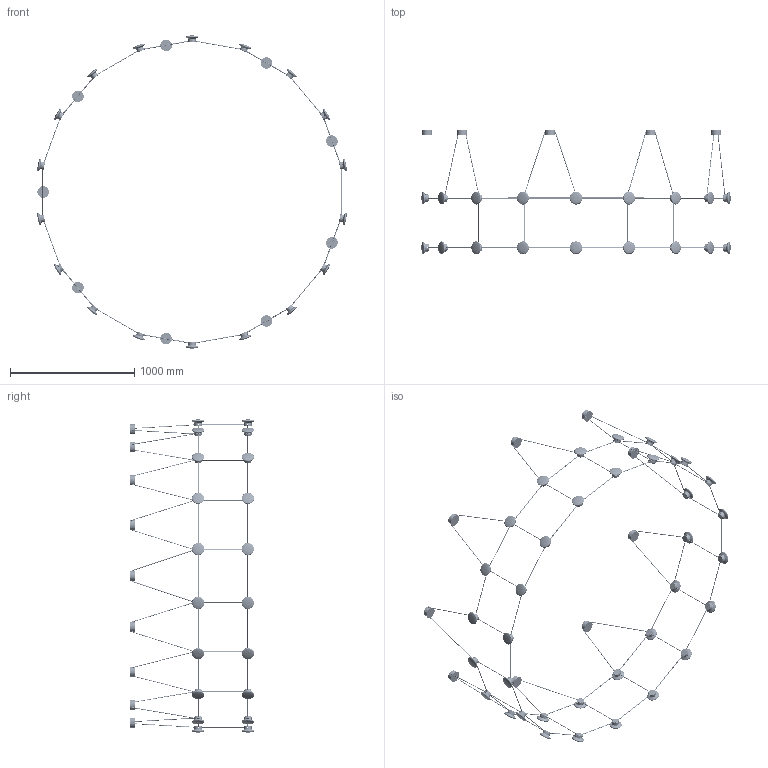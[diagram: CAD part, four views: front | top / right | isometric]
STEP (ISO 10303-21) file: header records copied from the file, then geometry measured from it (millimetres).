
FILE_DESCRIPTION (( 'STEP AP203' ), '1' );
FILE_NAME ('FBN08.LS02.AF01.R00 - Render.STEP', '2026-05-07T15:07:09', ( '' ), ( '' ), 'SwSTEP 2.0', 'SolidWorks 2025', '' );
FILE_SCHEMA (( 'CONFIG_CONTROL_DESIGN' ));
Length unit declared in the file: millimetre
Products named in the file (20): FBN08.LS02.AF01.R00 - Render; FBN08.LS01.C014.R00_Default<A macchina>; FBN08.LS01.AM02.R00; FBN08.LS01.AM06.R00; FBN08.LS01.C004.R00; FBN08.LS01.C016.R00; FBN08.LS01.AM01.R00; FBN08.LS01.AM03.R00; serrated lock washer 1_1_din_DIN 6798-J4.3; FBN08.LS01.C009.R00_Default<A macchina>; Modulo Led Star CV EA CL196-DB; Nipplo A_NIPPLO M10x1 H.7 NERO; FBN08.LS01.C015.R00; FBN08.LS01.AM04.R00; FBN08.LS01.C090.R00; FBN08.LS01.C010.R00; FBN08.LS01.C091.R00; FBN08.LS01.C001.R00; FBN08.LS01.C012.R00; FBN08.LS01.AM05.R00
Assembly tree (135 placements, depth 4):
  FBN08.LS02.AF01.R00 - Render
    FBN08.LS01.AM03.R00  x9
      serrated lock washer 1_1_din_DIN 6798-J4.3
      Nipplo A_NIPPLO M10x1 H.7 NERO
      FBN08.LS01.C014.R00_Default<A macchina>
      FBN08.LS01.C009.R00_Default<A macchina>
    FBN08.LS01.C090.R00  x18
    FBN08.LS01.AM02.R00  x18
      FBN08.LS01.C001.R00
      FBN08.LS01.AM01.R00
        FBN08.LS01.C004.R00
      FBN08.LS01.C012.R00
      Modulo Led Star CV EA CL196-DB
    FBN08.LS01.AM06.R00  x36
      FBN08.LS01.AM05.R00
        FBN08.LS01.C010.R00
        FBN08.LS01.C016.R00
    FBN08.LS01.AM04.R00  x18
      FBN08.LS01.C015.R00
      FBN08.LS01.AM01.R00
        FBN08.LS01.C004.R00
      FBN08.LS01.C012.R00
      Modulo Led Star CV EA CL196-DB
    FBN08.LS01.C091.R00  x18
Bounding box: 2491.54 x 998.99 x 2522.24 mm (x, y, z)
Volume: 4238308.9 mm3; surface area: 3417992.4 mm2
Topology: 333 solids, 333 shells, 11772 faces, 29484 edges, 18738 vertices
Faces by surface type: plane 5346, cylinder 4284, torus 810, cone 792, bspline 396, sphere 144
Entity records: 23905 total; most frequent: CARTESIAN_POINT 6246, DIRECTION 2793, ORIENTED_EDGE 2446, EDGE_CURVE 1223, AXIS2_PLACEMENT_3D 1087, VERTEX_POINT 790, LINE 619, VECTOR 619
